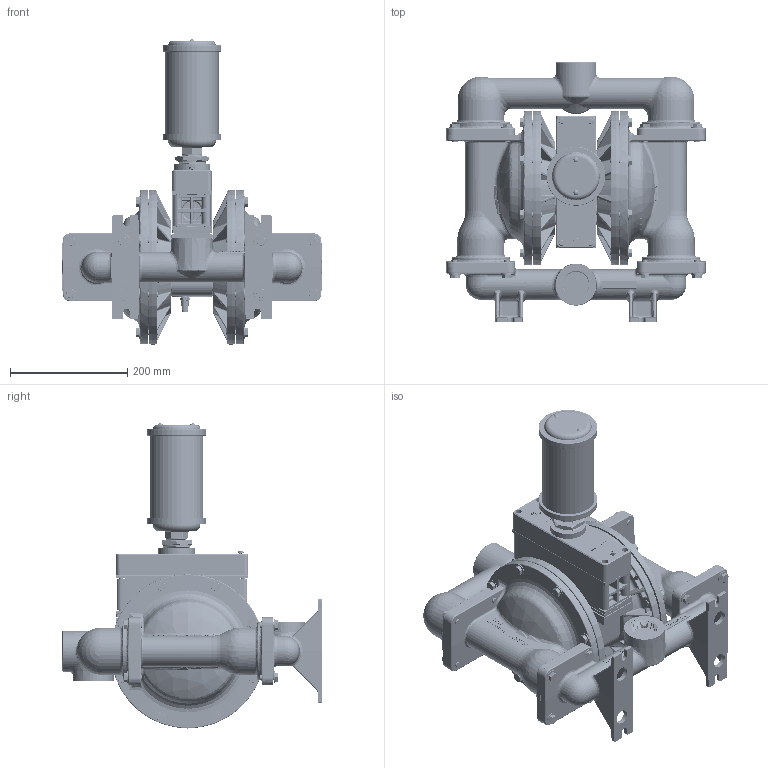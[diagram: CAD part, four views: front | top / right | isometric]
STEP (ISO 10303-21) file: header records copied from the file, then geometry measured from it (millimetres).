
FILE_DESCRIPTION (( 'STEP AP203' ), '1' );
FILE_NAME ('PS420_ADV_SS.STEP', '2022-06-06T08:54:25', ( '' ), ( '' ), 'SwSTEP 2.0', 'SolidWorks 2019', '' );
FILE_SCHEMA (( 'CONFIG_CONTROL_DESIGN' ));
Length unit declared in the file: inch
Products named in the file (1): PS420_ADV_SS
Bounding box: 443.47 x 443.33 x 521.14 mm (x, y, z)
Volume: 15034938.7 mm3; surface area: 1093681.4 mm2
Topology: 1 solids, 1 shells, 10022 faces, 25072 edges, 15371 vertices
Faces by surface type: plane 4502, bspline 2247, cylinder 1263, cone 813, torus 805, sphere 392
Entity records: 653330 total; most frequent: CARTESIAN_POINT 431820, ORIENTED_EDGE 50092, DIRECTION 40676, EDGE_CURVE 25046, VERTEX_POINT 15363, AXIS2_PLACEMENT_3D 14215, LINE 12246, VECTOR 12246
